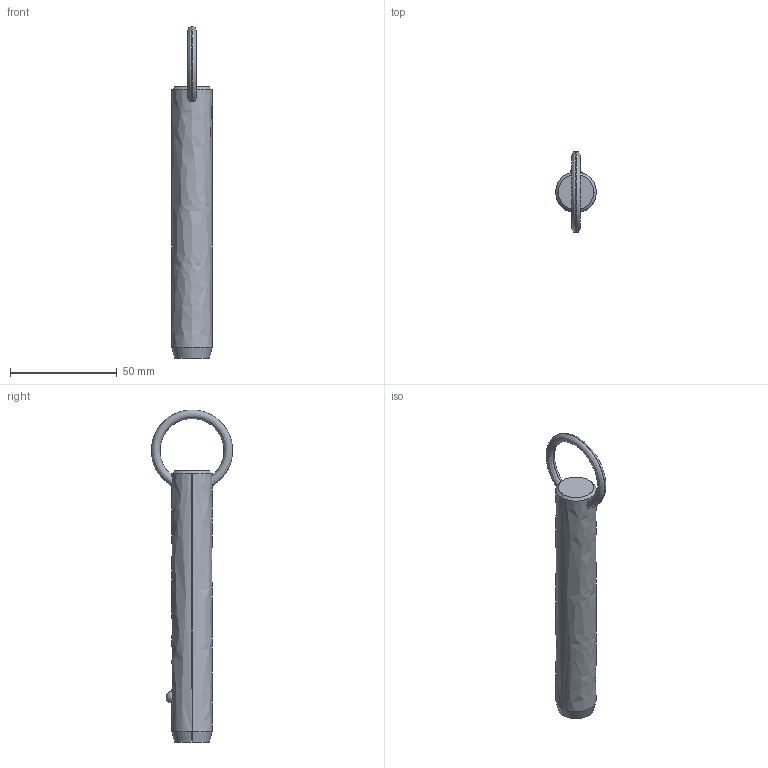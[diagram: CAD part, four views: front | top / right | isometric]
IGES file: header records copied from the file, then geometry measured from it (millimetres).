
Start section: SolidWorks IGES file using analytic representation for surfaces
Global section: file name: C:\Users\liam_\OneDrive\Documents\WORK\Work for WixRoyd\Job Files\J-00019 - Matt Davis CAD Checking\04. CAD Drawings\automotion20190605\P1250.2_v2\P1250.2_v2_20190729_IGES\P1250.075-370.igs; native system: SolidWorks 2017; preprocessor: SolidWorks 2017; author: liam_; date: 190729.235312; units: millimetre
Bounding box: 19 x 38.01 x 155.8 mm (x, y, z)
Surface area: 9125.4 mm2 (no closed solid volume)
Topology: 0 solids, 0 shells, 12 faces, 294 edges, 292 vertices
Faces by surface type: revolution 8, bspline 4
